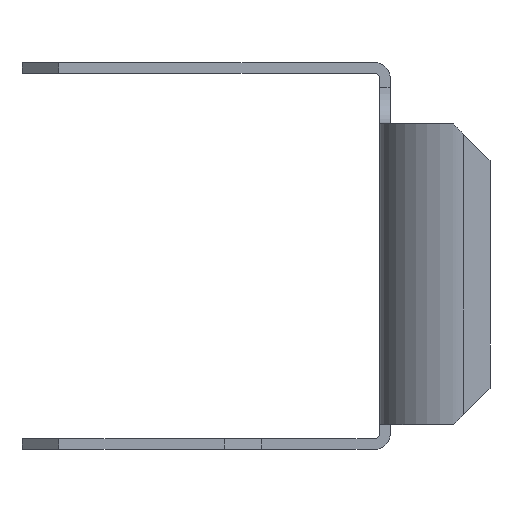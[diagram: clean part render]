
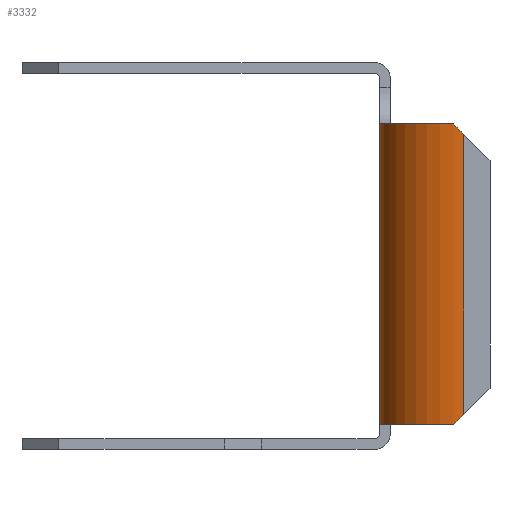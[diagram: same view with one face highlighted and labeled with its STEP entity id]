
A CAD part, left-side view. The second image highlights one B-rep face of the part: STEP entity #3332.
In plain terms, the highlighted cylindrical face has radius 14.529 mm (diameter 29.058 mm), a partial arc.
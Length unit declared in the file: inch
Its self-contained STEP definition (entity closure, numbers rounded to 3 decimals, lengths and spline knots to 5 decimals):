
#49=CIRCLE('',#3510,0.572);
#60=CIRCLE('',#3535,0.572);
#178=CYLINDRICAL_SURFACE('',#3534,0.572);
#254=FACE_OUTER_BOUND('',#426,.T.);
#426=EDGE_LOOP('',(#2289,#2290,#2291,#2292,#2293,#2294));
#615=ELLIPSE('',#3507,0.80893,0.572);
#618=ELLIPSE('',#3536,0.80893,0.572);
#660=LINE('',#4920,#1028);
#662=LINE('',#4924,#1030);
#1028=VECTOR('',#3924,0.3937);
#1030=VECTOR('',#3928,0.3937);
#1369=VERTEX_POINT('',#4826);
#1374=VERTEX_POINT('',#4835);
#1378=VERTEX_POINT('',#4845);
#1404=VERTEX_POINT('',#4919);
#1405=VERTEX_POINT('',#4923);
#1406=VERTEX_POINT('',#4925);
#1717=EDGE_CURVE('',#1374,#1369,#615,.T.);
#1722=EDGE_CURVE('',#1374,#1378,#49,.T.);
#1758=EDGE_CURVE('',#1404,#1369,#660,.T.);
#1760=EDGE_CURVE('',#1405,#1378,#662,.T.);
#1761=EDGE_CURVE('',#1405,#1406,#60,.T.);
#1762=EDGE_CURVE('',#1404,#1406,#618,.T.);
#2289=ORIENTED_EDGE('',*,*,#1717,.F.);
#2290=ORIENTED_EDGE('',*,*,#1722,.T.);
#2291=ORIENTED_EDGE('',*,*,#1760,.F.);
#2292=ORIENTED_EDGE('',*,*,#1761,.T.);
#2293=ORIENTED_EDGE('',*,*,#1762,.F.);
#2294=ORIENTED_EDGE('',*,*,#1758,.T.);
#3332=ADVANCED_FACE('',(#254),#178,.T.);
#3507=AXIS2_PLACEMENT_3D('',#4837,#3844,#3845);
#3510=AXIS2_PLACEMENT_3D('',#4847,#3853,#3854);
#3534=AXIS2_PLACEMENT_3D('',#4922,#3926,#3927);
#3535=AXIS2_PLACEMENT_3D('',#4926,#3929,#3930);
#3536=AXIS2_PLACEMENT_3D('',#4927,#3931,#3932);
#3844=DIRECTION('center_axis',(0.,-0.707,
0.707));
#3845=DIRECTION('ref_axis',(0.,0.707,0.707));
#3853=DIRECTION('center_axis',(0.,0.,
-1.));
#3854=DIRECTION('ref_axis',(0.,1.,0.));
#3924=DIRECTION('',(0.,0.,1.));
#3926=DIRECTION('center_axis',(0.,0.,1.));
#3927=DIRECTION('ref_axis',(0.,1.,0.));
#3928=DIRECTION('',(0.,0.,1.));
#3929=DIRECTION('center_axis',(0.,0.,1.));
#3930=DIRECTION('ref_axis',(0.,1.,0.));
#3931=DIRECTION('center_axis',(0.,-0.707,-0.707));
#3932=DIRECTION('ref_axis',(0.,0.707,-0.707));
#4826=CARTESIAN_POINT('',(-1.13633,-0.64506,2.13725));
#4835=CARTESIAN_POINT('',(-1.13178,-0.57306,2.20925));
#4837=CARTESIAN_POINT('Origin',(-0.56433,-0.64506,2.13725));
#4845=CARTESIAN_POINT('',(-0.56433,-0.07306,2.20925));
#4847=CARTESIAN_POINT('Origin',(-0.56433,-0.64506,2.20925));
#4919=CARTESIAN_POINT('',(-1.13633,-0.64506,0.23775));
#4920=CARTESIAN_POINT('',(-1.13633,-0.64506,2.45925));
#4922=CARTESIAN_POINT('Origin',(-0.56433,-0.64506,1.3125));
#4923=CARTESIAN_POINT('',(-0.56433,-0.07306,0.16575));
#4924=CARTESIAN_POINT('',(-0.56433,-0.07306,1.88588));
#4925=CARTESIAN_POINT('',(-1.13178,-0.57306,0.16575));
#4926=CARTESIAN_POINT('Origin',(-0.56433,-0.64506,0.16575));
#4927=CARTESIAN_POINT('Origin',(-0.56433,-0.64506,0.23775));
